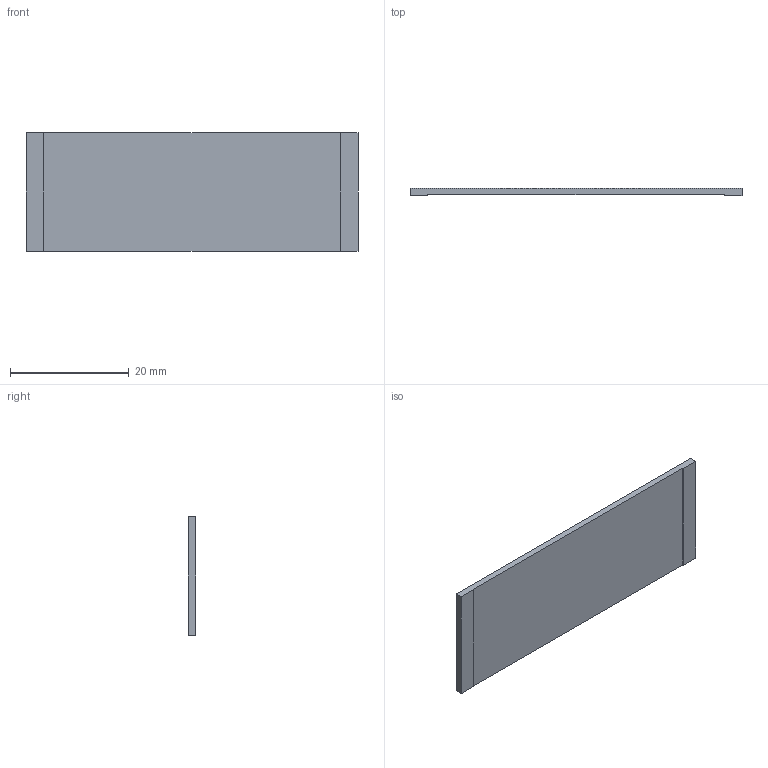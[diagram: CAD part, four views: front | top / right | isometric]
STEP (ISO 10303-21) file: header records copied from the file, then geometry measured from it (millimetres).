
FILE_DESCRIPTION(('Open CASCADE Model'),'2;1');
FILE_NAME('rear_grip_skin_finegrain_cream_INSCRIBED', '2026-09-06T11:35:16',('Author'),('Open CASCADE'), 'Open CASCADE STEP processor 7.8','build123d','Unknown');
FILE_SCHEMA(('AUTOMOTIVE_DESIGN { 1 0 10303 214 1 1 1 1 }'));
Products named in the file (1): rear_grip_skin_finegrain_cream_INSCRIBED
Bounding box: 56 x 1.2 x 20 mm (x, y, z)
Volume: 1176 mm3; surface area: 2519.7 mm2
Topology: 1 solids, 1 shells, 701 faces, 1962 edges, 1308 vertices
Faces by surface type: extrusion 419, plane 282
Entity records: 53760 total; most frequent: CARTESIAN_POINT 18329, DIRECTION 4744, VECTOR 4178, ORIENTED_EDGE 3924, PCURVE 3924, DEFINITIONAL_REPRESENTATION 3924, LINE 3759, B_SPLINE_CURVE_WITH_KNOTS 2546
